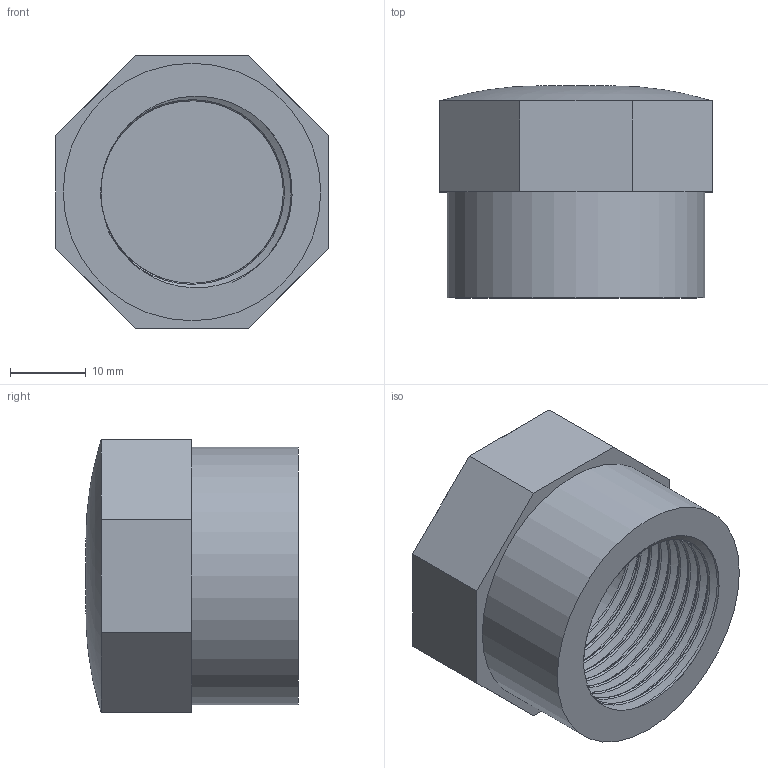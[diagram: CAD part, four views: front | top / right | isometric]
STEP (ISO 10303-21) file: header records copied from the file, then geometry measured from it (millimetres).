
FILE_DESCRIPTION(/* description */ ('PVC calotta filettata BSP'),/* implementation_level */ '2;1');
FILE_NAME(/* name */ 'C:\Users\POLYPIPE\Desktop\DATASET INVENTOR\LIBRERIA EFFAST\RACCORDI 3DxWEB\RER\3D_RERCAE\3D_RERCAE025C.stp',/* time_stamp */ '2018-01-19T15:57:06+01:00',/* author */ ('POLYPIPE'),/* organization */ ('Polypipe Italia s.r.l.'),/* preprocessor_version */ 'ST-DEVELOPER v16.1',/* originating_system */ 'Autodesk Inventor 2016',/* authorisation */ '');
FILE_SCHEMA (('CONFIG_CONTROL_DESIGN'));
Length unit declared in the file: millimetre
Products named in the file (1): 3D_RERCAE
Bounding box: 36 x 28 x 36 mm (x, y, z)
Volume: 16080.1 mm3; surface area: 7641.2 mm2
Topology: 1 solids, 1 shells, 30 faces, 68 edges, 42 vertices
Faces by surface type: plane 21, bspline 6, cylinder 3
Full cylindrical faces by diameter (mm): 10 x1, 24.117 x1, 34 x1
Entity records: 4097 total; most frequent: CARTESIAN_POINT 3448, ORIENTED_EDGE 128, DIRECTION 119, EDGE_CURVE 64, AXIS2_PLACEMENT_3D 42, VERTEX_POINT 41, LINE 35, VECTOR 35
